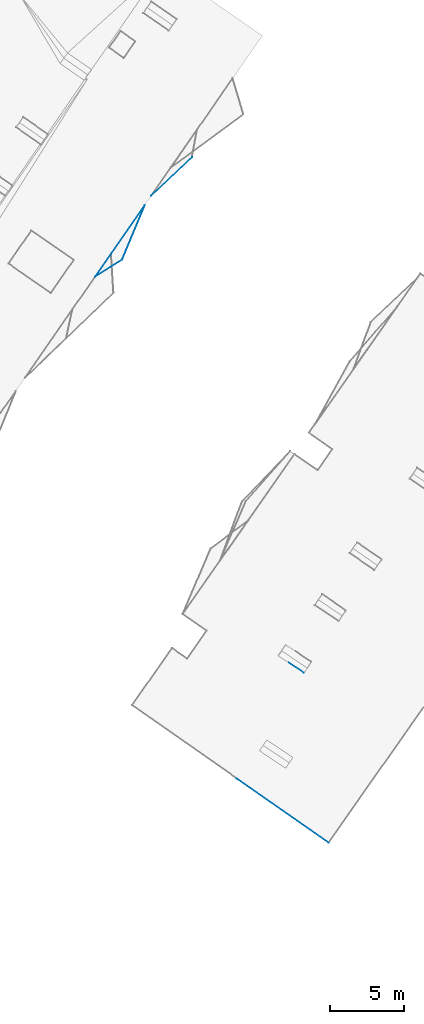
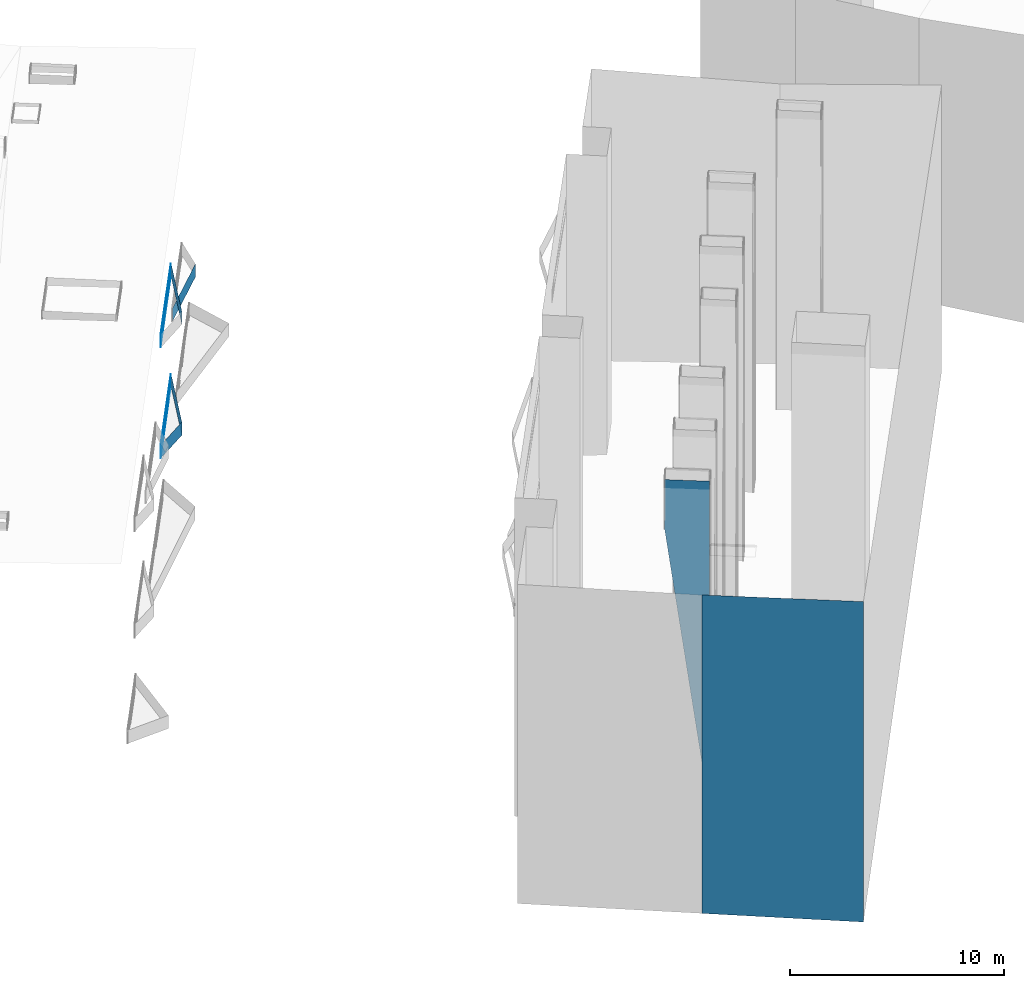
# Not in any storey, part 4 of 136: 13 walls.
"""IFC2X3 building model written with IfcOpenShell, lengths in metres."""

from ifc_helpers import new_model, entity, si_unit, converted_unit, frame, origin, place, context, subcontext, project, spatial, face_set, surface_model, element, save


model = new_model("IFC2X3")

# Units and contexts
model_context = context("Model", 3, precision=1e-05, world=origin())
body_context = subcontext(model_context, "Body", "Model", "MODEL_VIEW")
ifc_project = project(units=[converted_unit("PLANEANGLEUNIT", "DEGREE", entity("IfcRatioMeasure", 0.0174532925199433), si_unit("PLANEANGLEUNIT", "RADIAN"), dimensions=[0, 0, 0, 0, 0, 0, 0]), si_unit("AREAUNIT", "SQUARE_METRE"), si_unit("LENGTHUNIT", "METRE")], contexts=[model_context])

# Site, building
site_placement = place(None, origin())
site = spatial("IfcSite", under=ifc_project, at=site_placement, Name="_site", CompositionType="ELEMENT")
building_1_placement = place(site_placement, origin())
building_1 = spatial("IfcBuilding", under=site, at=building_1_placement, Name="_building", CompositionType="ELEMENT")

# Walls
wall_1_placement = place(building_1_placement, origin())
element("IfcWall", 1, at=wall_1_placement, inside=building_1, Name="Wall", context=body_context, shape_type="SurfaceModel", body=[
    surface_model("IfcFaceBasedSurfaceModel", [(8.08, 22.53, 54.41), (6.34, 23.69, 54.41), (6.34, 23.69, 51.566), (8.08, 22.53, 35.701)], [face_set([[[0, 1, 2, 3]]])]),
])
wall_2_placement = place(building_1_placement, origin())
element("IfcWall", 2, at=wall_2_placement, inside=building_1, Name="Wall", context=body_context, shape_type="SurfaceModel", body=[
    surface_model("IfcFaceBasedSurfaceModel", [(9.75, 11.04, 53.93), (3.55, 15.38, 53.85), (3.55, 15.38, 35.705), (9.75, 11.04, 35.673)], [face_set([[[0, 1, 2, 3]]])]),
])

# Building
building_2_placement = place(site_placement, origin())
building_2 = spatial("IfcBuilding", under=site, at=building_2_placement, Name="_building", CompositionType="ELEMENT")

# Walls
wall_3_placement = place(building_2_placement, origin())
element("IfcWall", 3, at=wall_3_placement, inside=building_2, Name="Wall", context=body_context, shape_type="SurfaceModel", body=[
    surface_model("IfcFaceBasedSurfaceModel", [(-6.03, 49.33, 44.39), (-2.68, 54.16, 44.39), (-2.68, 54.16, 45.14), (-6.03, 49.33, 45.14)], [face_set([[[0, 1, 2, 3]]])]),
])
wall_4_placement = place(building_2_placement, origin())
element("IfcWall", 4, at=wall_4_placement, inside=building_2, Name="Wall", context=body_context, shape_type="SurfaceModel", body=[
    surface_model("IfcFaceBasedSurfaceModel", [(-2.68, 54.16, 44.39), (-4.22, 50.48, 44.39), (-4.22, 50.48, 45.14), (-2.68, 54.16, 45.14)], [face_set([[[0, 1, 2, 3]]])]),
])
wall_5_placement = place(building_2_placement, origin())
element("IfcWall", 5, at=wall_5_placement, inside=building_2, Name="Wall", context=body_context, shape_type="SurfaceModel", body=[
    surface_model("IfcFaceBasedSurfaceModel", [(-6.03, 49.33, 44.39), (-2.68, 54.16, 44.39), (-2.68, 54.16, 45.14), (-6.03, 49.33, 45.14)], [face_set([[[0, 1, 2, 3]]])]),
])
wall_6_placement = place(building_2_placement, origin())
element("IfcWall", 6, at=wall_6_placement, inside=building_2, Name="Wall", context=body_context, shape_type="SurfaceModel", body=[
    surface_model("IfcFaceBasedSurfaceModel", [(-2.68, 54.16, 44.39), (-4.22, 50.48, 44.39), (-4.22, 50.48, 45.14), (-2.68, 54.16, 45.14)], [face_set([[[0, 1, 2, 3]]])]),
])
for number, where, name in (
    (7, (0.0, 0.0, 0.0), "Wall"),
    (8, (0.0, 0.0, 0.0), "Wall"),
):
    element("IfcWall", number, at=place(building_2_placement, frame(where)), inside=building_2, Name=name, context=body_context, shape_type="SurfaceModel", body=[
        surface_model("IfcFaceBasedSurfaceModel", [(0.51, 57.41, 47.54), (-2.24, 54.8, 47.54), (-2.24, 54.8, 48.29), (0.51, 57.41, 48.29)], [face_set([[[0, 1, 2, 3]]])]),
    ])
wall_7_placement = place(building_2_placement, origin())
element("IfcWall", 9, at=wall_7_placement, inside=building_2, Name="Wall", context=body_context, shape_type="SurfaceModel", body=[
    surface_model("IfcFaceBasedSurfaceModel", [(-2.68, 54.16, 50.7), (-4.22, 50.48, 50.7), (-4.22, 50.48, 51.45), (-2.68, 54.16, 51.45)], [face_set([[[0, 1, 2, 3]]])]),
])
for number, where, name in (
    (10, (0.0, 0.0, 0.0), "Wall"),
    (11, (0.0, 0.0, 0.0), "Wall"),
):
    element("IfcWall", number, at=place(building_2_placement, frame(where)), inside=building_2, Name=name, context=body_context, shape_type="SurfaceModel", body=[
        surface_model("IfcFaceBasedSurfaceModel", [(-6.03, 49.33, 50.7), (-2.68, 54.16, 50.7), (-2.68, 54.16, 51.45), (-6.03, 49.33, 51.45)], [face_set([[[0, 1, 2, 3]]])]),
    ])
wall_8_placement = place(building_2_placement, origin())
element("IfcWall", 12, at=wall_8_placement, inside=building_2, Name="Wall", context=body_context, shape_type="SurfaceModel", body=[
    surface_model("IfcFaceBasedSurfaceModel", [(-2.68, 54.16, 50.7), (-4.22, 50.48, 50.7), (-4.22, 50.48, 51.45), (-2.68, 54.16, 51.45)], [face_set([[[0, 1, 2, 3]]])]),
])
wall_9_placement = place(building_2_placement, origin())
element("IfcWall", 13, at=wall_9_placement, inside=building_2, Name="Wall", context=body_context, shape_type="SurfaceModel", body=[
    surface_model("IfcFaceBasedSurfaceModel", [(-4.22, 50.48, 44.39), (-6.03, 49.33, 44.39), (-6.03, 49.33, 45.14), (-4.22, 50.48, 45.14)], [face_set([[[0, 1, 2, 3]]])]),
])

save(model, "model.ifc")
